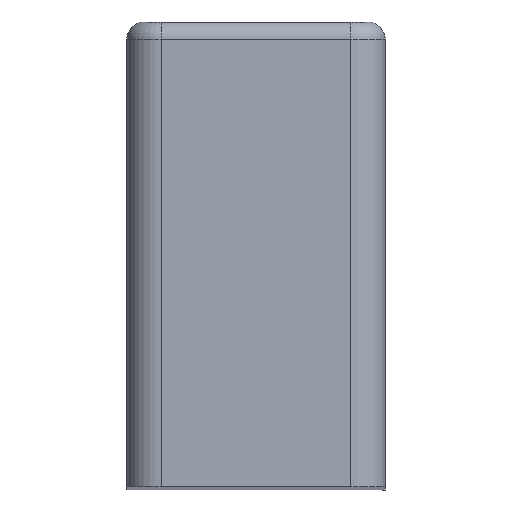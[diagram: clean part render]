
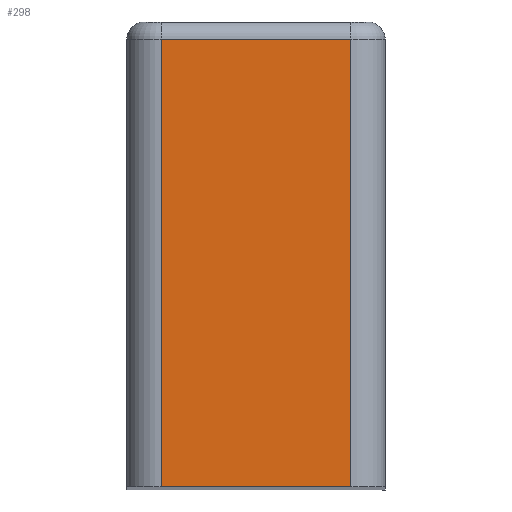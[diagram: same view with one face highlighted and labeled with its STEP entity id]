
A CAD part, top view. The second image highlights one B-rep face of the part: STEP entity #298.
In plain terms, the highlighted planar face has unit normal (0, 0, 1).
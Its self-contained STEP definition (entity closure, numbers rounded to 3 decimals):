
#33 = FACE_OUTER_BOUND ( 'NONE', #138, .T. ) ;
#36 = VECTOR ( 'NONE', #443, 1000. ) ;
#37 = LINE ( 'NONE', #444, #36 ) ;
#53 = VECTOR ( 'NONE', #467, 1000. ) ;
#54 = LINE ( 'NONE', #468, #53 ) ;
#58 = VECTOR ( 'NONE', #474, 1000. ) ;
#60 = LINE ( 'NONE', #475, #58 ) ;
#117 = VECTOR ( 'NONE', #323, 1000. ) ;
#127 = LINE ( 'NONE', #334, #117 ) ;
#138 = EDGE_LOOP ( 'NONE', ( #160, #161, #162, #163 ) ) ;
#160 = ORIENTED_EDGE ( 'NONE', *, *, #277, .F. ) ;
#161 = ORIENTED_EDGE ( 'NONE', *, *, #222, .T. ) ;
#162 = ORIENTED_EDGE ( 'NONE', *, *, #288, .T. ) ;
#163 = ORIENTED_EDGE ( 'NONE', *, *, #271, .T. ) ;
#222 = EDGE_CURVE ( 'NONE', #476, #507, #127, .T. ) ;
#271 = EDGE_CURVE ( 'NONE', #497, #503, #60, .T. ) ;
#277 = EDGE_CURVE ( 'NONE', #476, #503, #54, .T. ) ;
#288 = EDGE_CURVE ( 'NONE', #507, #497, #37, .T. ) ;
#294 = AXIS2_PLACEMENT_3D ( 'NONE', #427, #423, #422 ) ;
#298 = ADVANCED_FACE ( 'NONE', ( #33 ), #425, .F. ) ;
#323 = DIRECTION ( 'NONE',  ( -1., 0., 0. ) ) ;
#332 = CARTESIAN_POINT ( 'NONE',  ( -5.5, 26., 101.56 ) ) ;
#334 = CARTESIAN_POINT ( 'NONE',  ( -5.5, 26., 101.56 ) ) ;
#336 = CARTESIAN_POINT ( 'NONE',  ( 5.5, 0., 101.56 ) ) ;
#342 = CARTESIAN_POINT ( 'NONE',  ( -5.5, 0., 101.56 ) ) ;
#351 = CARTESIAN_POINT ( 'NONE',  ( 5.5, 26., 101.56 ) ) ;
#422 = DIRECTION ( 'NONE',  ( 0., -1., 0. ) ) ;
#423 = DIRECTION ( 'NONE',  ( 0., 0., -1. ) ) ;
#425 = PLANE ( 'NONE',  #294 ) ;
#427 = CARTESIAN_POINT ( 'NONE',  ( -5.5, 27., 101.56 ) ) ;
#443 = DIRECTION ( 'NONE',  ( 0., -1., 0. ) ) ;
#444 = CARTESIAN_POINT ( 'NONE',  ( -5.5, 27., 101.56 ) ) ;
#467 = DIRECTION ( 'NONE',  ( 0., -1., 0. ) ) ;
#468 = CARTESIAN_POINT ( 'NONE',  ( 5.5, 27., 101.56 ) ) ;
#474 = DIRECTION ( 'NONE',  ( 1., 0., 0. ) ) ;
#475 = CARTESIAN_POINT ( 'NONE',  ( -5.5, 0., 101.56 ) ) ;
#476 = VERTEX_POINT ( 'NONE', #351 ) ;
#497 = VERTEX_POINT ( 'NONE', #342 ) ;
#503 = VERTEX_POINT ( 'NONE', #336 ) ;
#507 = VERTEX_POINT ( 'NONE', #332 ) ;
